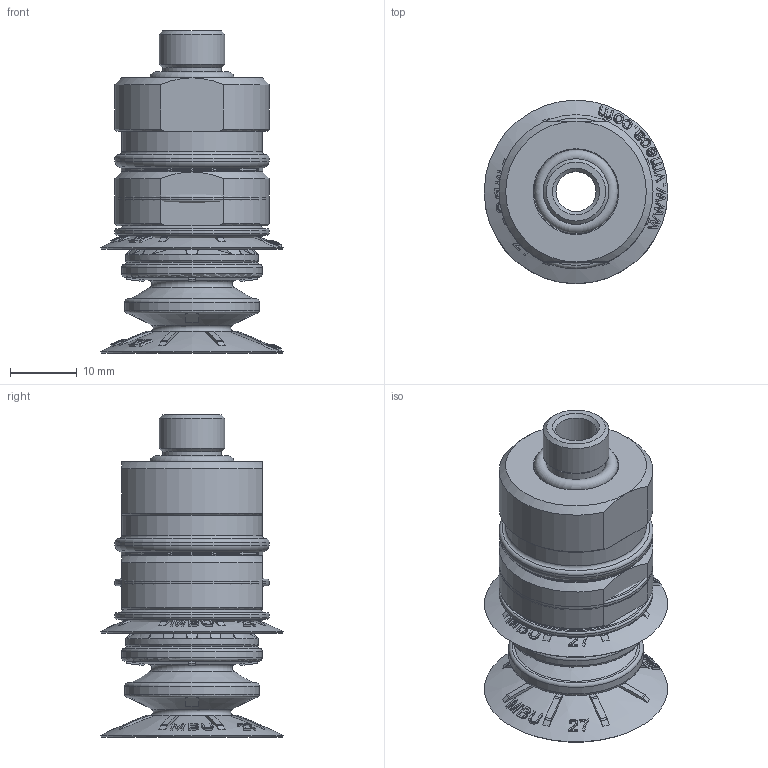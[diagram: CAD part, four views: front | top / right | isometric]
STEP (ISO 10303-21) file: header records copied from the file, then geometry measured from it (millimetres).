
FILE_DESCRIPTION( ( 'Unknown' ), '1' );
FILE_NAME( 'C:/Documents and Settings/Administrator/官帕 拳搁/Magic Cup (Dim)/B2.5/MBU TYPE/B2.5-20/B2.5-20-MBU27-N6-D-F2-18M.stp', 'Unknown', ( 'Unknown' ), ( 'Unknown' ), 'XStep 1.0', 'Unknown', ' ' );
FILE_SCHEMA( ( 'automotive_design' ) );
Length unit declared in the file: millimetre
Products named in the file (8): Assem1; Assem2; Assem3; 赤20 STOPPER ; MBU27(DIM); B2.5-20; 20-18M(DIM); 18M-Oring(DIM)
Bounding box: 27.4 x 27.4 x 48.09 mm (x, y, z)
Volume: 23572.5 mm3; surface area: 31833.4 mm2
Topology: 15 solids, 15 shells, 1827 faces, 4689 edges, 2997 vertices
Faces by surface type: plane 810, cylinder 324, torus 264, cone 225, extrusion 129, bspline 75
Full cylindrical faces by diameter (mm): 6 x3, 8 x3, 8.8 x3, 9.8 x6, 11 x3, 11.9 x6, 12.4 x3, 13 x3, 13.4 x6, 14.475 x3, 15 x6, 15.673 x3, 15.7 x3, 16 x3, 17 x3, 17.5 x3, 17.527 x3, 19.8 x3, 20.1 x3, 21 x6, 21.18 x3, 23 x9
Entity records: 22380 total; most frequent: CARTESIAN_POINT 7937, ORIENTED_EDGE 2888, DIRECTION 2342, EDGE_CURVE 1444, VERTEX_POINT 989, AXIS2_PLACEMENT_3D 953, EDGE_LOOP 761, B_SPLINE_CURVE_WITH_KNOTS 690
